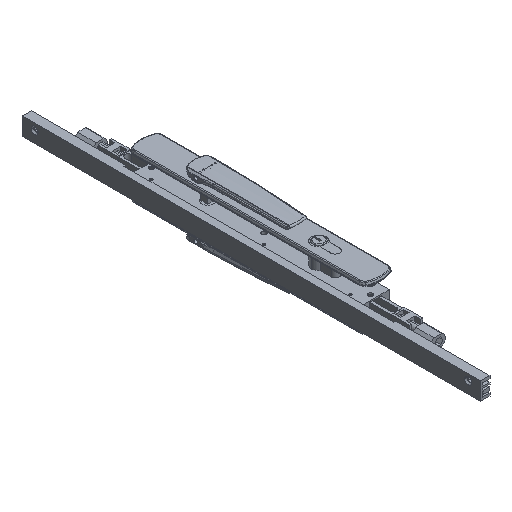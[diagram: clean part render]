
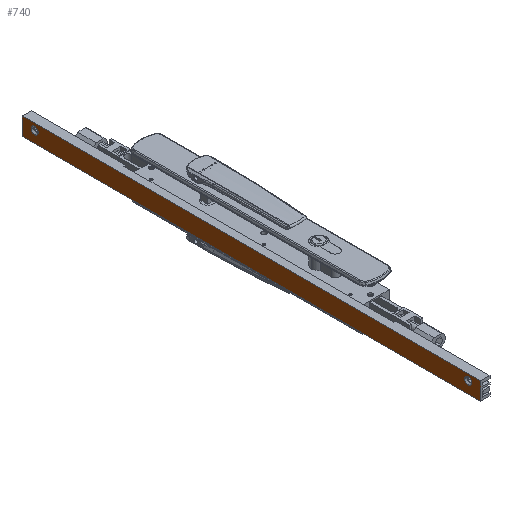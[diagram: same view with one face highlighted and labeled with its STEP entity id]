
A CAD part, isometric view. The second image highlights one B-rep face of the part: STEP entity #740.
In plain terms, the highlighted planar face has unit normal (-1, 0, 0) as drawn and (0, 1, 0) by its records, which use the part's own axes.
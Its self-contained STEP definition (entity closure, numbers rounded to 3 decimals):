
#465 = FACE_BOUND ( 'NONE', #25159, .T. ) ;
#740 = ADVANCED_FACE ( 'NONE', ( #465, #16435, #15894 ), #3911, .F. ) ;
#1195 = EDGE_LOOP ( 'NONE', ( #29191, #3373, #47409, #25930 ) ) ;
#1257 = ORIENTED_EDGE ( 'NONE', *, *, #50305, .F. ) ;
#1882 = CARTESIAN_POINT ( 'NONE',  ( 19.3, 12.4, 0. ) ) ;
#2124 = AXIS2_PLACEMENT_3D ( 'NONE', #26048, #6610, #43310 ) ;
#2295 = ORIENTED_EDGE ( 'NONE', *, *, #35272, .F. ) ;
#2526 = CARTESIAN_POINT ( 'NONE',  ( 20.8, 12.4, 544. ) ) ;
#2973 = CARTESIAN_POINT ( 'NONE',  ( 11.8, 12.4, 533.216 ) ) ;
#3373 = ORIENTED_EDGE ( 'NONE', *, *, #3848, .T. ) ;
#3848 = EDGE_CURVE ( 'NONE', #5823, #14044, #39499, .T. ) ;
#3911 = PLANE ( 'NONE',  #7803 ) ;
#5823 = VERTEX_POINT ( 'NONE', #41692 ) ;
#6321 = CARTESIAN_POINT ( 'NONE',  ( 11.8, 12.4, 529. ) ) ;
#6610 = DIRECTION ( 'NONE',  ( 0., 1., 0. ) ) ;
#7060 = CIRCLE ( 'NONE', #29163, 4.216 ) ;
#7270 = CARTESIAN_POINT ( 'NONE',  ( 11.8, 12.4, 15. ) ) ;
#7803 = AXIS2_PLACEMENT_3D ( 'NONE', #28120, #32130, #48901 ) ;
#11967 = CARTESIAN_POINT ( 'NONE',  ( -1.7, 12.4, 544. ) ) ;
#13150 = CIRCLE ( 'NONE', #2124, 4.216 ) ;
#14044 = VERTEX_POINT ( 'NONE', #1882 ) ;
#15134 = AXIS2_PLACEMENT_3D ( 'NONE', #26981, #18962, #43227 ) ;
#15210 = LINE ( 'NONE', #47672, #46252 ) ;
#15478 = EDGE_CURVE ( 'NONE', #47060, #48110, #35174, .T. ) ;
#15769 = VERTEX_POINT ( 'NONE', #29571 ) ;
#15894 = FACE_OUTER_BOUND ( 'NONE', #1195, .T. ) ;
#16435 = FACE_BOUND ( 'NONE', #45539, .T. ) ;
#17490 = CARTESIAN_POINT ( 'NONE',  ( -1.7, 12.4, 0. ) ) ;
#18738 = DIRECTION ( 'NONE',  ( -1., 0., 0. ) ) ;
#18962 = DIRECTION ( 'NONE',  ( 0., 1., 0. ) ) ;
#19009 = AXIS2_PLACEMENT_3D ( 'NONE', #6321, #31284, #47521 ) ;
#19447 = DIRECTION ( 'NONE',  ( 0., 1., 0. ) ) ;
#20404 = ORIENTED_EDGE ( 'NONE', *, *, #39464, .F. ) ;
#22328 = ORIENTED_EDGE ( 'NONE', *, *, #51565, .F. ) ;
#22467 = CIRCLE ( 'NONE', #19009, 4.216 ) ;
#25159 = EDGE_LOOP ( 'NONE', ( #2295, #1257 ) ) ;
#25930 = ORIENTED_EDGE ( 'NONE', *, *, #15478, .F. ) ;
#26048 = CARTESIAN_POINT ( 'NONE',  ( 11.8, 12.4, 529. ) ) ;
#26933 = DIRECTION ( 'NONE',  ( -1., 0., 0. ) ) ;
#26981 = CARTESIAN_POINT ( 'NONE',  ( 11.8, 12.4, 15. ) ) ;
#27144 = EDGE_CURVE ( 'NONE', #5823, #47060, #38242, .T. ) ;
#27176 = DIRECTION ( 'NONE',  ( 0., 0., -1. ) ) ;
#28120 = CARTESIAN_POINT ( 'NONE',  ( 20.8, 12.4, 544. ) ) ;
#28531 = VECTOR ( 'NONE', #46979, 1000. ) ;
#29163 = AXIS2_PLACEMENT_3D ( 'NONE', #7270, #19447, #51440 ) ;
#29191 = ORIENTED_EDGE ( 'NONE', *, *, #27144, .F. ) ;
#29334 = VERTEX_POINT ( 'NONE', #39299 ) ;
#29571 = CARTESIAN_POINT ( 'NONE',  ( 11.8, 12.4, 10.784 ) ) ;
#31284 = DIRECTION ( 'NONE',  ( 0., 1., 0. ) ) ;
#31678 = VERTEX_POINT ( 'NONE', #49010 ) ;
#32130 = DIRECTION ( 'NONE',  ( 0., -1., 0. ) ) ;
#35174 = LINE ( 'NONE', #51424, #36965 ) ;
#35272 = EDGE_CURVE ( 'NONE', #31678, #15769, #7060, .T. ) ;
#36373 = CIRCLE ( 'NONE', #15134, 4.216 ) ;
#36609 = EDGE_CURVE ( 'NONE', #14044, #48110, #15210, .T. ) ;
#36965 = VECTOR ( 'NONE', #27176, 1000. ) ;
#38242 = LINE ( 'NONE', #2526, #47548 ) ;
#39299 = CARTESIAN_POINT ( 'NONE',  ( 11.8, 12.4, 524.784 ) ) ;
#39464 = EDGE_CURVE ( 'NONE', #48704, #29334, #22467, .T. ) ;
#39499 = LINE ( 'NONE', #52006, #28531 ) ;
#41692 = CARTESIAN_POINT ( 'NONE',  ( 19.3, 12.4, 544. ) ) ;
#43227 = DIRECTION ( 'NONE',  ( 0., 0., 1. ) ) ;
#43310 = DIRECTION ( 'NONE',  ( 0., 0., 1. ) ) ;
#45539 = EDGE_LOOP ( 'NONE', ( #20404, #22328 ) ) ;
#46252 = VECTOR ( 'NONE', #26933, 1000. ) ;
#46979 = DIRECTION ( 'NONE',  ( 0., 0., -1. ) ) ;
#47060 = VERTEX_POINT ( 'NONE', #11967 ) ;
#47409 = ORIENTED_EDGE ( 'NONE', *, *, #36609, .T. ) ;
#47521 = DIRECTION ( 'NONE',  ( 0., 0., 1. ) ) ;
#47548 = VECTOR ( 'NONE', #18738, 1000. ) ;
#47672 = CARTESIAN_POINT ( 'NONE',  ( 20.8, 12.4, 0. ) ) ;
#48110 = VERTEX_POINT ( 'NONE', #17490 ) ;
#48704 = VERTEX_POINT ( 'NONE', #2973 ) ;
#48901 = DIRECTION ( 'NONE',  ( 1., 0., 0. ) ) ;
#49010 = CARTESIAN_POINT ( 'NONE',  ( 11.8, 12.4, 19.216 ) ) ;
#50305 = EDGE_CURVE ( 'NONE', #15769, #31678, #36373, .T. ) ;
#51424 = CARTESIAN_POINT ( 'NONE',  ( -1.7, 12.4, 544. ) ) ;
#51440 = DIRECTION ( 'NONE',  ( 0., 0., 1. ) ) ;
#51565 = EDGE_CURVE ( 'NONE', #29334, #48704, #13150, .T. ) ;
#52006 = CARTESIAN_POINT ( 'NONE',  ( 19.3, 12.4, 544. ) ) ;
